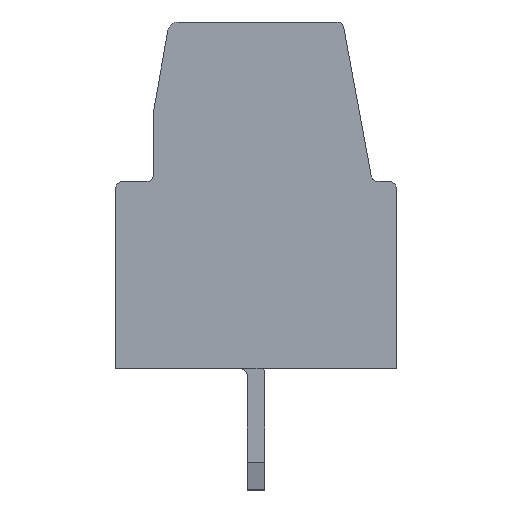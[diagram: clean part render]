
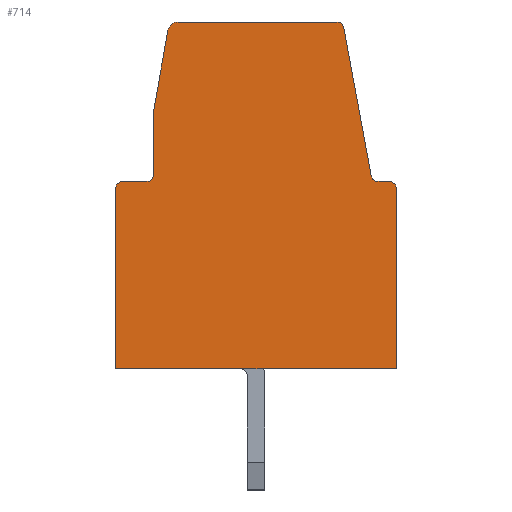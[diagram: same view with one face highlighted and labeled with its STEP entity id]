
A CAD part, left-side view. The second image highlights one B-rep face of the part: STEP entity #714.
In plain terms, the highlighted planar face has unit normal (-1, 0, 0).
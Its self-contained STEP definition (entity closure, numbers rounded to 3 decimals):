
#714=ADVANCED_FACE('',(#1885),#1886,.T.);
#1885=FACE_OUTER_BOUND('',#3524,.T.);
#1886=PLANE('',#3525);
#3524=EDGE_LOOP('',(#5623,#5624,#5625,#5626,#5627,#5628,#5629,#5630,#5631,#5632,#5633,#5634,#5635,#5636,#5637));
#3525=AXIS2_PLACEMENT_3D('',#5638,#5639,#5640);
#5623=ORIENTED_EDGE('',*,*,#10140,.F.);
#5624=ORIENTED_EDGE('',*,*,#10144,.F.);
#5625=ORIENTED_EDGE('',*,*,#10191,.F.);
#5626=ORIENTED_EDGE('',*,*,#10149,.F.);
#5627=ORIENTED_EDGE('',*,*,#10153,.F.);
#5628=ORIENTED_EDGE('',*,*,#10157,.F.);
#5629=ORIENTED_EDGE('',*,*,#10161,.T.);
#5630=ORIENTED_EDGE('',*,*,#10169,.F.);
#5631=ORIENTED_EDGE('',*,*,#10433,.F.);
#5632=ORIENTED_EDGE('',*,*,#10198,.F.);
#5633=ORIENTED_EDGE('',*,*,#10109,.F.);
#5634=ORIENTED_EDGE('',*,*,#10184,.F.);
#5635=ORIENTED_EDGE('',*,*,#10128,.F.);
#5636=ORIENTED_EDGE('',*,*,#10132,.F.);
#5637=ORIENTED_EDGE('',*,*,#10136,.T.);
#5638=CARTESIAN_POINT('',(0.0,16.414,-18.438));
#5639=DIRECTION('',(-1.0,0.0,0.0));
#5640=DIRECTION('',(0.0,-1.0,0.0));
#10109=EDGE_CURVE('',#12175,#12177,#12178,.T.);
#10128=EDGE_CURVE('',#12212,#12207,#12214,.T.);
#10132=EDGE_CURVE('',#12218,#12212,#12220,.T.);
#10136=EDGE_CURVE('',#12218,#12224,#12226,.T.);
#10140=EDGE_CURVE('',#12230,#12224,#12232,.T.);
#10144=EDGE_CURVE('',#12236,#12230,#12238,.T.);
#10149=EDGE_CURVE('',#12245,#12240,#12247,.T.);
#10153=EDGE_CURVE('',#12251,#12245,#12253,.T.);
#10157=EDGE_CURVE('',#12257,#12251,#12259,.T.);
#10161=EDGE_CURVE('',#12257,#12263,#12265,.T.);
#10169=EDGE_CURVE('',#12277,#12263,#12279,.T.);
#10184=EDGE_CURVE('',#12207,#12175,#12303,.T.);
#10191=EDGE_CURVE('',#12240,#12236,#12314,.T.);
#10198=EDGE_CURVE('',#12177,#12323,#12324,.T.);
#10433=EDGE_CURVE('',#12323,#12277,#12674,.T.);
#12175=VERTEX_POINT('',#15205);
#12177=VERTEX_POINT('',#15208);
#12178=LINE('',#15209,#15210);
#12207=VERTEX_POINT('',#15253);
#12212=VERTEX_POINT('',#15259);
#12214=CIRCLE('',#15262,0.2);
#12218=VERTEX_POINT('',#15267);
#12220=LINE('',#15270,#15271);
#12224=VERTEX_POINT('',#15275);
#12226=CIRCLE('',#15278,0.2);
#12230=VERTEX_POINT('',#15283);
#12232=LINE('',#15286,#15287);
#12236=VERTEX_POINT('',#15291);
#12238=CIRCLE('',#15294,0.2);
#12240=VERTEX_POINT('',#15296);
#12245=VERTEX_POINT('',#15302);
#12247=CIRCLE('',#15305,0.3);
#12251=VERTEX_POINT('',#15310);
#12253=LINE('',#15313,#15314);
#12257=VERTEX_POINT('',#15319);
#12259=LINE('',#15322,#15323);
#12263=VERTEX_POINT('',#15327);
#12265=CIRCLE('',#15330,0.2);
#12277=VERTEX_POINT('',#15347);
#12279=LINE('',#15350,#15351);
#12303=LINE('',#15382,#15383);
#12314=LINE('',#15399,#15400);
#12323=VERTEX_POINT('',#15413);
#12324=LINE('',#15414,#15415);
#12674=CIRCLE('',#15912,0.2);
#15205=CARTESIAN_POINT('',(0.0,0.0,0.0));
#15208=CARTESIAN_POINT('',(0.0,8.1,0.0));
#15209=CARTESIAN_POINT('',(0.0,16.414,0.0));
#15210=VECTOR('',#19453,1000.0);
#15253=CARTESIAN_POINT('',(0.0,0.0,5.2));
#15259=CARTESIAN_POINT('',(0.0,0.2,5.4));
#15262=AXIS2_PLACEMENT_3D('',#19473,#19474,#19475);
#15267=CARTESIAN_POINT('',(0.0,0.531,5.4));
#15270=CARTESIAN_POINT('',(0.0,16.414,5.4));
#15271=VECTOR('',#19478,1000.0);
#15275=CARTESIAN_POINT('',(0.0,0.728,5.564));
#15278=AXIS2_PLACEMENT_3D('',#19483,#19484,#19485);
#15283=CARTESIAN_POINT('',(0.0,1.52,9.836));
#15286=CARTESIAN_POINT('',(0.0,-3.721,-18.438));
#15287=VECTOR('',#19488,1000.0);
#15291=CARTESIAN_POINT('',(0.0,1.716,10.0));
#15294=AXIS2_PLACEMENT_3D('',#19493,#19494,#19495);
#15296=CARTESIAN_POINT('',(0.0,6.298,10.0));
#15302=CARTESIAN_POINT('',(0.0,6.594,9.752));
#15305=AXIS2_PLACEMENT_3D('',#19501,#19502,#19503);
#15310=CARTESIAN_POINT('',(0.0,7.0,7.448));
#15313=CARTESIAN_POINT('',(0.0,11.564,-18.438));
#15314=VECTOR('',#19506,1000.0);
#15319=CARTESIAN_POINT('',(0.0,7.0,5.6));
#15322=CARTESIAN_POINT('',(0.0,7.0,-18.438));
#15323=VECTOR('',#19509,1000.0);
#15327=CARTESIAN_POINT('',(0.0,7.2,5.4));
#15330=AXIS2_PLACEMENT_3D('',#19514,#19515,#19516);
#15347=CARTESIAN_POINT('',(0.0,7.9,5.4));
#15350=CARTESIAN_POINT('',(0.0,16.414,5.4));
#15351=VECTOR('',#19523,1000.0);
#15382=CARTESIAN_POINT('',(0.0,0.0,-18.438));
#15383=VECTOR('',#19543,1000.0);
#15399=CARTESIAN_POINT('',(0.0,16.414,10.0));
#15400=VECTOR('',#19549,1000.0);
#15413=CARTESIAN_POINT('',(0.0,8.1,5.2));
#15414=CARTESIAN_POINT('',(0.0,8.1,-18.438));
#15415=VECTOR('',#19557,1000.0);
#15912=AXIS2_PLACEMENT_3D('',#19792,#19793,#19794);
#19453=DIRECTION('',(0.0,1.0,0.0));
#19473=CARTESIAN_POINT('',(0.0,0.2,5.2));
#19474=DIRECTION('',(1.0,0.0,0.0));
#19475=DIRECTION('',(0.0,1.0,0.0));
#19478=DIRECTION('',(0.0,-1.0,0.0));
#19483=CARTESIAN_POINT('',(0.0,0.531,5.6));
#19484=DIRECTION('',(1.0,0.0,0.0));
#19485=DIRECTION('',(0.0,1.0,0.0));
#19488=DIRECTION('',(0.0,-0.182,-0.983));
#19493=CARTESIAN_POINT('',(0.0,1.716,9.8));
#19494=DIRECTION('',(1.0,0.0,0.0));
#19495=DIRECTION('',(0.0,1.0,0.0));
#19501=CARTESIAN_POINT('',(0.0,6.298,9.7));
#19502=DIRECTION('',(1.0,0.0,0.0));
#19503=DIRECTION('',(0.0,1.0,0.0));
#19506=DIRECTION('',(0.0,-0.174,0.985));
#19509=DIRECTION('',(0.0,0.0,1.0));
#19514=CARTESIAN_POINT('',(0.0,7.2,5.6));
#19515=DIRECTION('',(1.0,0.0,0.0));
#19516=DIRECTION('',(0.0,1.0,0.0));
#19523=DIRECTION('',(0.0,-1.0,0.0));
#19543=DIRECTION('',(0.0,0.0,-1.0));
#19549=DIRECTION('',(0.0,-1.0,0.0));
#19557=DIRECTION('',(0.0,0.0,1.0));
#19792=CARTESIAN_POINT('',(0.0,7.9,5.2));
#19793=DIRECTION('',(1.0,0.0,0.0));
#19794=DIRECTION('',(0.0,1.0,0.0));
